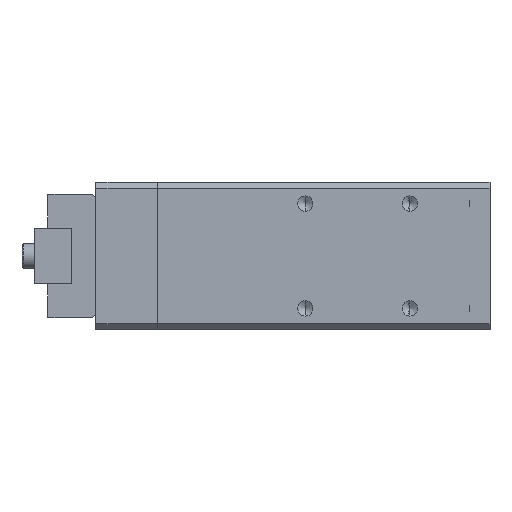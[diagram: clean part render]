
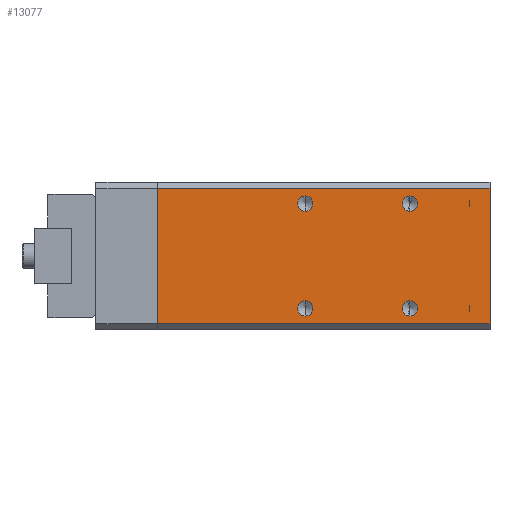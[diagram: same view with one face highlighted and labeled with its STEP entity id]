
A CAD part, left-side view. The second image highlights one B-rep face of the part: STEP entity #13077.
In plain terms, the highlighted planar face has unit normal (-1, 0, 0).
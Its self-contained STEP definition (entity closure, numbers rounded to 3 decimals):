
#2221 = VERTEX_POINT ( 'NONE', #9830 ) ;
#2233 = EDGE_CURVE ( 'NONE', #2221, #2296, #9844, .T. ) ;
#2245 = VERTEX_POINT ( 'NONE', #9918 ) ;
#2255 = EDGE_CURVE ( 'NONE', #2245, #2256, #9905, .T. ) ;
#2256 = VERTEX_POINT ( 'NONE', #9900 ) ;
#2266 = VERTEX_POINT ( 'NONE', #9983 ) ;
#2277 = VERTEX_POINT ( 'NONE', #10014 ) ;
#2280 = EDGE_CURVE ( 'NONE', #2291, #2277, #10008, .T. ) ;
#2291 = VERTEX_POINT ( 'NONE', #10027 ) ;
#2296 = VERTEX_POINT ( 'NONE', #10020 ) ;
#2325 = VERTEX_POINT ( 'NONE', #10182 ) ;
#2331 = EDGE_CURVE ( 'NONE', #2266, #2325, #10176, .T. ) ;
#9830 = CARTESIAN_POINT ( 'NONE',  ( -17., 34., 7.25 ) ) ;
#9843 = CARTESIAN_POINT ( 'NONE',  ( -17., 34., 8.5 ) ) ;
#9844 = CIRCLE ( 'NONE', #9896, 1.25 ) ;
#9894 = DIRECTION ( 'NONE',  ( 0., 0., 1. ) ) ;
#9895 = DIRECTION ( 'NONE',  ( -1., 0., 0. ) ) ;
#9896 = AXIS2_PLACEMENT_3D ( 'NONE', #9843, #9895, #9894 ) ;
#9900 = CARTESIAN_POINT ( 'NONE',  ( -17., 51., 9.75 ) ) ;
#9901 = DIRECTION ( 'NONE',  ( 0., 0., 1. ) ) ;
#9902 = DIRECTION ( 'NONE',  ( -1., 0., 0. ) ) ;
#9903 = CARTESIAN_POINT ( 'NONE',  ( -17., 51., 8.5 ) ) ;
#9904 = AXIS2_PLACEMENT_3D ( 'NONE', #9903, #9902, #9901 ) ;
#9905 = CIRCLE ( 'NONE', #9904, 1.25 ) ;
#9918 = CARTESIAN_POINT ( 'NONE',  ( -17., 51., 7.25 ) ) ;
#9983 = CARTESIAN_POINT ( 'NONE',  ( -17., 51., -9.75 ) ) ;
#10004 = DIRECTION ( 'NONE',  ( 0., 0., 1. ) ) ;
#10005 = DIRECTION ( 'NONE',  ( -1., 0., 0. ) ) ;
#10006 = CARTESIAN_POINT ( 'NONE',  ( -17., 34., -8.5 ) ) ;
#10007 = AXIS2_PLACEMENT_3D ( 'NONE', #10006, #10005, #10004 ) ;
#10008 = CIRCLE ( 'NONE', #10007, 1.25 ) ;
#10014 = CARTESIAN_POINT ( 'NONE',  ( -17., 34., -7.25 ) ) ;
#10020 = CARTESIAN_POINT ( 'NONE',  ( -17., 34., 9.75 ) ) ;
#10027 = CARTESIAN_POINT ( 'NONE',  ( -17., 34., -9.75 ) ) ;
#10172 = DIRECTION ( 'NONE',  ( 0., 0., 1. ) ) ;
#10173 = DIRECTION ( 'NONE',  ( -1., 0., 0. ) ) ;
#10174 = CARTESIAN_POINT ( 'NONE',  ( -17., 51., -8.5 ) ) ;
#10175 = AXIS2_PLACEMENT_3D ( 'NONE', #10174, #10173, #10172 ) ;
#10176 = CIRCLE ( 'NONE', #10175, 1.25 ) ;
#10182 = CARTESIAN_POINT ( 'NONE',  ( -17., 51., -7.25 ) ) ;
#11544 = DIRECTION ( 'NONE',  ( 0., 0., -1. ) ) ;
#11545 = VECTOR ( 'NONE', #11544, 1000. ) ;
#11546 = CARTESIAN_POINT ( 'NONE',  ( -17., 64., 12. ) ) ;
#11547 = LINE ( 'NONE', #11546, #11545 ) ;
#11568 = CIRCLE ( 'NONE', #11627, 1.25 ) ;
#11571 = CARTESIAN_POINT ( 'NONE',  ( -17., 64., -11. ) ) ;
#11572 = CARTESIAN_POINT ( 'NONE',  ( -17., 64., 11. ) ) ;
#11573 = DIRECTION ( 'NONE',  ( 0., 0., -1. ) ) ;
#11574 = DIRECTION ( 'NONE',  ( 1., 0., 0. ) ) ;
#11575 = CARTESIAN_POINT ( 'NONE',  ( -17., 10., 12. ) ) ;
#11576 = AXIS2_PLACEMENT_3D ( 'NONE', #11575, #11574, #11573 ) ;
#11577 = PLANE ( 'NONE',  #11576 ) ;
#11592 = FACE_BOUND ( 'NONE', #16194, .T. ) ;
#11593 = FACE_BOUND ( 'NONE', #13634, .T. ) ;
#11594 = FACE_BOUND ( 'NONE', #13506, .T. ) ;
#11595 = FACE_OUTER_BOUND ( 'NONE', #13215, .T. ) ;
#11596 = FACE_BOUND ( 'NONE', #13194, .T. ) ;
#11597 = DIRECTION ( 'NONE',  ( -1., 0., 0. ) ) ;
#11598 = CARTESIAN_POINT ( 'NONE',  ( -17., 34., -8.5 ) ) ;
#11599 = AXIS2_PLACEMENT_3D ( 'NONE', #11598, #11597, #11656 ) ;
#11600 = CIRCLE ( 'NONE', #11599, 1.25 ) ;
#11624 = DIRECTION ( 'NONE',  ( 0., 0., 1. ) ) ;
#11625 = DIRECTION ( 'NONE',  ( -1., 0., 0. ) ) ;
#11626 = CARTESIAN_POINT ( 'NONE',  ( -17., 34., 8.5 ) ) ;
#11627 = AXIS2_PLACEMENT_3D ( 'NONE', #11626, #11625, #11624 ) ;
#11632 = CARTESIAN_POINT ( 'NONE',  ( -17., 10., -11. ) ) ;
#11633 = DIRECTION ( 'NONE',  ( 0., 0., -1. ) ) ;
#11634 = VECTOR ( 'NONE', #11633, 1000. ) ;
#11635 = CARTESIAN_POINT ( 'NONE',  ( -17., 10., 12. ) ) ;
#11636 = LINE ( 'NONE', #11635, #11634 ) ;
#11637 = DIRECTION ( 'NONE',  ( 0., 1., 0. ) ) ;
#11638 = VECTOR ( 'NONE', #11637, 1000. ) ;
#11639 = CARTESIAN_POINT ( 'NONE',  ( -17., 10., 11. ) ) ;
#11640 = LINE ( 'NONE', #11639, #11638 ) ;
#11641 = CARTESIAN_POINT ( 'NONE',  ( -17., 10., 11. ) ) ;
#11642 = DIRECTION ( 'NONE',  ( 0., 0., 1. ) ) ;
#11643 = DIRECTION ( 'NONE',  ( -1., 0., 0. ) ) ;
#11644 = CARTESIAN_POINT ( 'NONE',  ( -17., 51., -8.5 ) ) ;
#11645 = AXIS2_PLACEMENT_3D ( 'NONE', #11644, #11643, #11642 ) ;
#11646 = CIRCLE ( 'NONE', #11645, 1.25 ) ;
#11656 = DIRECTION ( 'NONE',  ( 0., 0., 1. ) ) ;
#11683 = DIRECTION ( 'NONE',  ( 0., -1., 0. ) ) ;
#11684 = VECTOR ( 'NONE', #11683, 1000. ) ;
#11685 = CARTESIAN_POINT ( 'NONE',  ( -17., 10., -11. ) ) ;
#11686 = LINE ( 'NONE', #11685, #11684 ) ;
#12614 = DIRECTION ( 'NONE',  ( 0., 0., 1. ) ) ;
#12615 = DIRECTION ( 'NONE',  ( -1., 0., 0. ) ) ;
#12616 = CARTESIAN_POINT ( 'NONE',  ( -17., 51., 8.5 ) ) ;
#12617 = AXIS2_PLACEMENT_3D ( 'NONE', #12616, #12615, #12614 ) ;
#12618 = CIRCLE ( 'NONE', #12617, 1.25 ) ;
#13039 = EDGE_CURVE ( 'NONE', #13095, #13118, #11547, .T. ) ;
#13077 = ADVANCED_FACE ( 'NONE', ( #11596, #11595, #11594, #11593, #11592 ), #11577, .F. ) ;
#13095 = VERTEX_POINT ( 'NONE', #11572 ) ;
#13107 = ORIENTED_EDGE ( 'NONE', *, *, #2233, .F. ) ;
#13118 = VERTEX_POINT ( 'NONE', #11571 ) ;
#13194 = EDGE_LOOP ( 'NONE', ( #13266, #13107 ) ) ;
#13199 = EDGE_CURVE ( 'NONE', #2296, #2221, #11568, .T. ) ;
#13215 = EDGE_LOOP ( 'NONE', ( #13219, #13916, #13510, #13588 ) ) ;
#13219 = ORIENTED_EDGE ( 'NONE', *, *, #13039, .T. ) ;
#13266 = ORIENTED_EDGE ( 'NONE', *, *, #13199, .F. ) ;
#13289 = EDGE_CURVE ( 'NONE', #2277, #2291, #11600, .T. ) ;
#13506 = EDGE_LOOP ( 'NONE', ( #13557, #13718 ) ) ;
#13510 = ORIENTED_EDGE ( 'NONE', *, *, #13619, .F. ) ;
#13526 = EDGE_CURVE ( 'NONE', #2325, #2266, #11646, .T. ) ;
#13557 = ORIENTED_EDGE ( 'NONE', *, *, #13526, .F. ) ;
#13561 = VERTEX_POINT ( 'NONE', #11641 ) ;
#13588 = ORIENTED_EDGE ( 'NONE', *, *, #13593, .T. ) ;
#13593 = EDGE_CURVE ( 'NONE', #13561, #13095, #11640, .T. ) ;
#13619 = EDGE_CURVE ( 'NONE', #13561, #13695, #11636, .T. ) ;
#13634 = EDGE_LOOP ( 'NONE', ( #13739, #16198 ) ) ;
#13695 = VERTEX_POINT ( 'NONE', #11632 ) ;
#13718 = ORIENTED_EDGE ( 'NONE', *, *, #2331, .F. ) ;
#13739 = ORIENTED_EDGE ( 'NONE', *, *, #13289, .F. ) ;
#13816 = EDGE_CURVE ( 'NONE', #13118, #13695, #11686, .T. ) ;
#13916 = ORIENTED_EDGE ( 'NONE', *, *, #13816, .T. ) ;
#16194 = EDGE_LOOP ( 'NONE', ( #16195, #16267 ) ) ;
#16195 = ORIENTED_EDGE ( 'NONE', *, *, #16196, .F. ) ;
#16196 = EDGE_CURVE ( 'NONE', #2256, #2245, #12618, .T. ) ;
#16198 = ORIENTED_EDGE ( 'NONE', *, *, #2280, .F. ) ;
#16267 = ORIENTED_EDGE ( 'NONE', *, *, #2255, .F. ) ;
